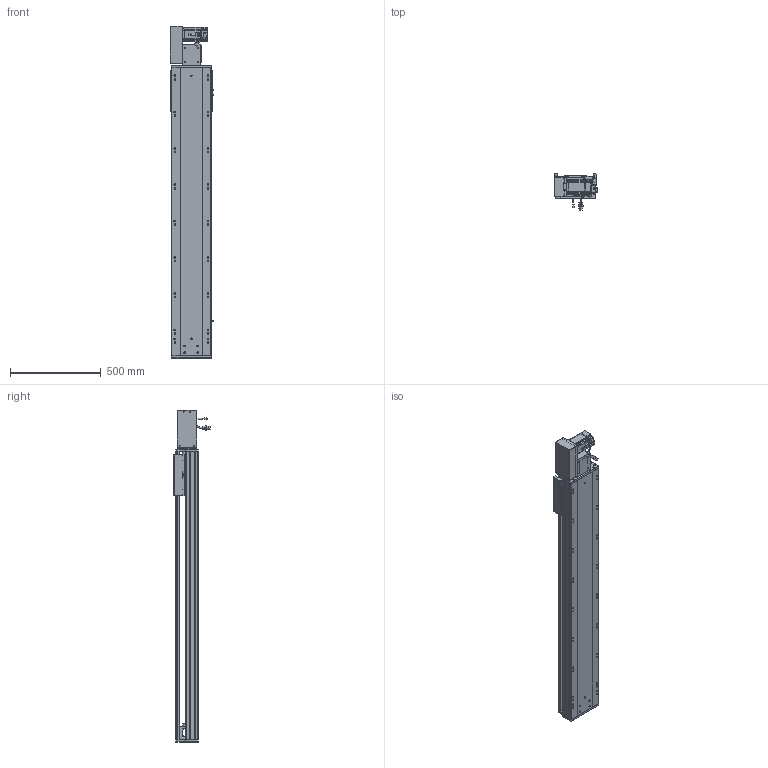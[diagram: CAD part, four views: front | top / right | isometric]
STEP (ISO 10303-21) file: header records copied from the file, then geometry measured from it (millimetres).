
FILE_DESCRIPTION (( 'STEP AP203' ), '1' );
FILE_NAME ('RY220-T-300-LK.SLDASM_1250.step', '2022-07-25T08:14:12', ( '' ), ( '' ), 'SwSTEP 2.0', 'SolidWorks 2016', '' );
FILE_SCHEMA (( 'CONFIG_CONTROL_DESIGN' ));
Length unit declared in the file: millimetre
Products named in the file (14): RY220翋肮祭謫裔啣; RY220翋肮祭謫釱; RY220-同步轮副支撑座6304×2; 怢湛750W_ECMA-CX0807ES; RY220-T-300-奻裔啣_1250; 滅袉蝶18-15; RY220-T-湍謫欶(鍼踢); RY220-俋离672覜茼んえ; RY220圉猾敕々湍臏賑輸; RY220-T-300-LK.SLDASM_1250; 覜茼ん672; RY220-T-蛌殏萇儂假蚾啣(750W); RY220-T菁釱-300_1250; 110A-T-肮祭謫釱傷裔
Assembly tree (18 placements, depth 2):
  RY220-T-300-LK.SLDASM_1250
    RY220-T菁釱-300_1250
    RY220翋肮祭謫釱
    覜茼ん672  x3
    RY220圉猾敕々湍臏賑輸
    RY220-T-300-奻裔啣_1250
    RY220-俋离672覜茼んえ
    滅袉蝶18-15  x3
    RY220翋肮祭謫裔啣  x2
    110A-T-肮祭謫釱傷裔
    怢湛750W_ECMA-CX0807ES
    RY220-T-湍謫欶(鍼踢)
    RY220-T-蛌殏萇儂假蚾啣(750W)
    RY220-同步轮副支撑座6304×2
Bounding box: 239.7 x 198.77 x 1829 mm (x, y, z)
Volume: 13874748.2 mm3; surface area: 4108395.4 mm2
Topology: 19 solids, 19 shells, 2684 faces, 7411 edges, 4694 vertices
Faces by surface type: cylinder 1268, plane 1069, cone 265, bspline 56, sphere 16, torus 10
Entity records: 89395 total; most frequent: CARTESIAN_POINT 25481, ORIENTED_EDGE 13274, DIRECTION 12580, EDGE_CURVE 6637, AXIS2_PLACEMENT_3D 4462, VERTEX_POINT 4318, LINE 3656, VECTOR 3656
